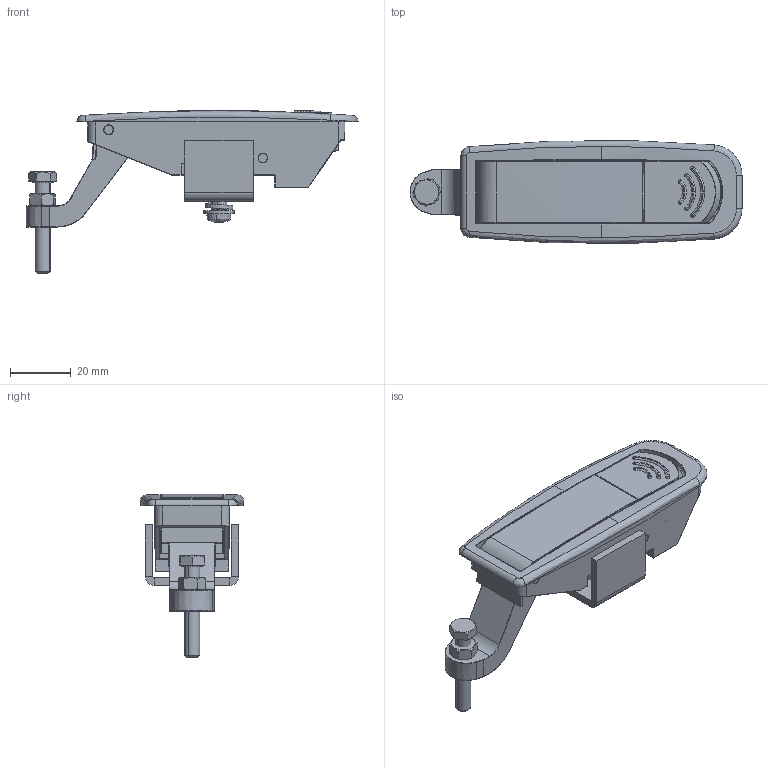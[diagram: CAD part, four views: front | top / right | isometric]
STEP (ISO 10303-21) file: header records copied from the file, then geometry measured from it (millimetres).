
FILE_DESCRIPTION (( 'STEP AP214' ), '1' );
FILE_NAME ('2.615.001.STEP', '2025-01-15T11:20:40', ( '' ), ( '' ), 'SwSTEP 2.0', 'SolidWorks 2021', '' );
FILE_SCHEMA (( 'AUTOMOTIVE_DESIGN' ));
Length unit declared in the file: millimetre
Products named in the file (13): DIN 933_M5x30; DIN 125 A_M5; P.039214_naprｩｾona; P.039231_00-00; 2.615.001; P.039811_00-01; P.039844_00-00; DIN-7985_M5x12; DIN 127 B_M5 - ST; DIN 934_M5; P.039824_04-01; P.040017_naprｩｾony; P.039678_01-01
Assembly tree (15 placements, depth 2):
  2.615.001
    P.039678_01-01
    P.039824_04-01
    P.039811_00-01
    P.039844_00-00  x2
    P.039231_00-00
    DIN-7985_M5x12
    DIN 934_M5
    DIN 127 B_M5 - ST  x2
    DIN 125 A_M5  x2
    P.040017_naprｩｾony
    P.039214_naprｩｾona
    DIN 933_M5x30
Bounding box: 109.26 x 33.77 x 53.79 mm (x, y, z)
Volume: 29226.1 mm3; surface area: 28555.5 mm2
Topology: 15 solids, 15 shells, 1541 faces, 3632 edges, 2098 vertices
Faces by surface type: plane 542, cylinder 496, bspline 250, sphere 122, torus 81, cone 50
Entity records: 47855 total; most frequent: CARTESIAN_POINT 16860, ORIENTED_EDGE 6588, DIRECTION 6230, EDGE_CURVE 3294, AXIS2_PLACEMENT_3D 2389, VERTEX_POINT 1916, EDGE_LOOP 1478, LINE 1452
